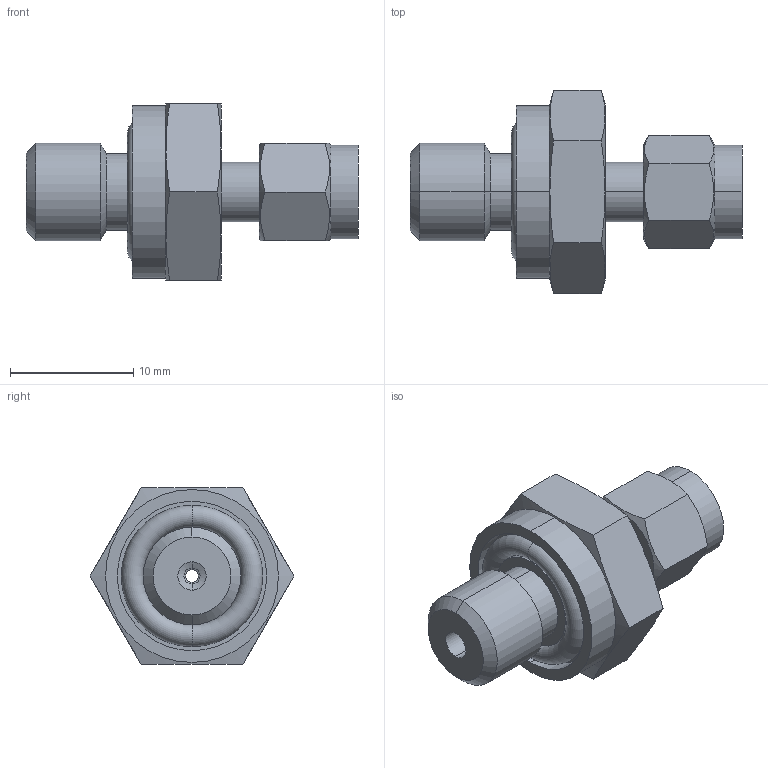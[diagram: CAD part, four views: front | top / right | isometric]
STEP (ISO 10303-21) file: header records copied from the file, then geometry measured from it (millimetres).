
FILE_DESCRIPTION (( 'STEP AP203' ), '1' );
FILE_NAME ('DCO01-02 SS.STEP', '2009-10-08T08:01:34', ( ' ' ), ( '' ), 'SwSTEP 2.0', 'SolidWorks 2008', '' );
FILE_SCHEMA (( 'CONFIG_CONTROL_DESIGN' ));
Length unit declared in the file: millimetre
Products named in the file (1): DCO01-02 SS
Bounding box: 26.9 x 16.5 x 14.29 mm (x, y, z)
Volume: 1958.4 mm3; surface area: 1633.6 mm2
Topology: 2 solids, 2 shells, 63 faces, 140 edges, 86 vertices
Faces by surface type: plane 21, cylinder 20, cone 18, torus 4
Entity records: 1917 total; most frequent: CARTESIAN_POINT 458, DIRECTION 292, ORIENTED_EDGE 280, EDGE_CURVE 140, AXIS2_PLACEMENT_3D 124, VERTEX_POINT 86, EDGE_LOOP 72, ADVANCED_FACE 63
